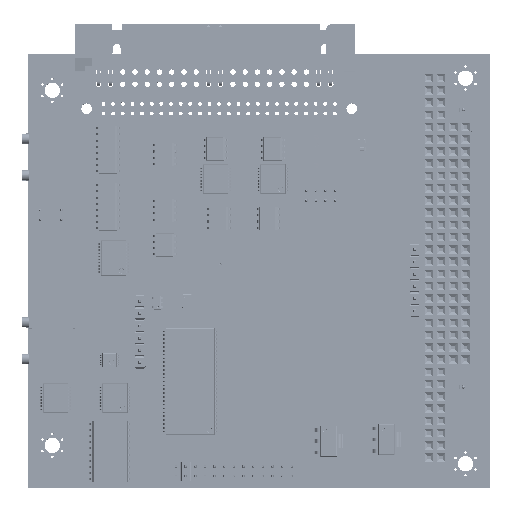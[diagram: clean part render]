
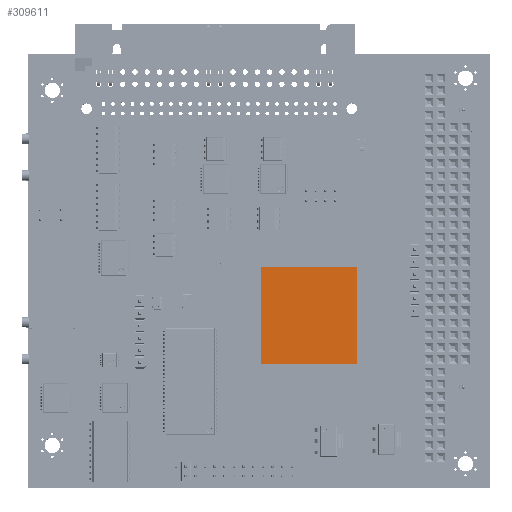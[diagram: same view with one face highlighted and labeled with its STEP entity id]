
A CAD part, top view. The second image highlights one B-rep face of the part: STEP entity #309611.
In plain terms, the highlighted planar face has unit normal (0, 0, 1).
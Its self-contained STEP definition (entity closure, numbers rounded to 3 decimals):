
#309482 = VERTEX_POINT('',#309483);
#309483 = CARTESIAN_POINT('',(-10.,10.,1.6));
#309489 = EDGE_CURVE('',#309482,#309490,#309492,.T.);
#309490 = VERTEX_POINT('',#309491);
#309491 = CARTESIAN_POINT('',(10.,10.,1.6));
#309492 = LINE('',#309493,#309494);
#309493 = CARTESIAN_POINT('',(-10.,10.,1.6));
#309494 = VECTOR('',#309495,1.);
#309495 = DIRECTION('',(1.,0.,0.));
#309520 = EDGE_CURVE('',#309490,#309521,#309523,.T.);
#309521 = VERTEX_POINT('',#309522);
#309522 = CARTESIAN_POINT('',(10.,-10.,1.6));
#309523 = LINE('',#309524,#309525);
#309524 = CARTESIAN_POINT('',(10.,10.,1.6));
#309525 = VECTOR('',#309526,1.);
#309526 = DIRECTION('',(0.,-1.,0.));
#309551 = EDGE_CURVE('',#309521,#309552,#309554,.T.);
#309552 = VERTEX_POINT('',#309553);
#309553 = CARTESIAN_POINT('',(-10.,-10.,1.6));
#309554 = LINE('',#309555,#309556);
#309555 = CARTESIAN_POINT('',(10.,-10.,1.6));
#309556 = VECTOR('',#309557,1.);
#309557 = DIRECTION('',(-1.,0.,0.));
#309582 = EDGE_CURVE('',#309552,#309482,#309583,.T.);
#309583 = LINE('',#309584,#309585);
#309584 = CARTESIAN_POINT('',(-10.,-10.,1.6));
#309585 = VECTOR('',#309586,1.);
#309586 = DIRECTION('',(0.,1.,0.));
#309611 = ADVANCED_FACE('',(#309612),#309618,.T.);
#309612 = FACE_BOUND('',#309613,.F.);
#309613 = EDGE_LOOP('',(#309614,#309615,#309616,#309617));
#309614 = ORIENTED_EDGE('',*,*,#309489,.T.);
#309615 = ORIENTED_EDGE('',*,*,#309520,.T.);
#309616 = ORIENTED_EDGE('',*,*,#309551,.T.);
#309617 = ORIENTED_EDGE('',*,*,#309582,.T.);
#309618 = PLANE('',#309619);
#309619 = AXIS2_PLACEMENT_3D('',#309620,#309621,#309622);
#309620 = CARTESIAN_POINT('',(-10.,10.,1.6));
#309621 = DIRECTION('',(0.,0.,1.));
#309622 = DIRECTION('',(1.,0.,0.));
